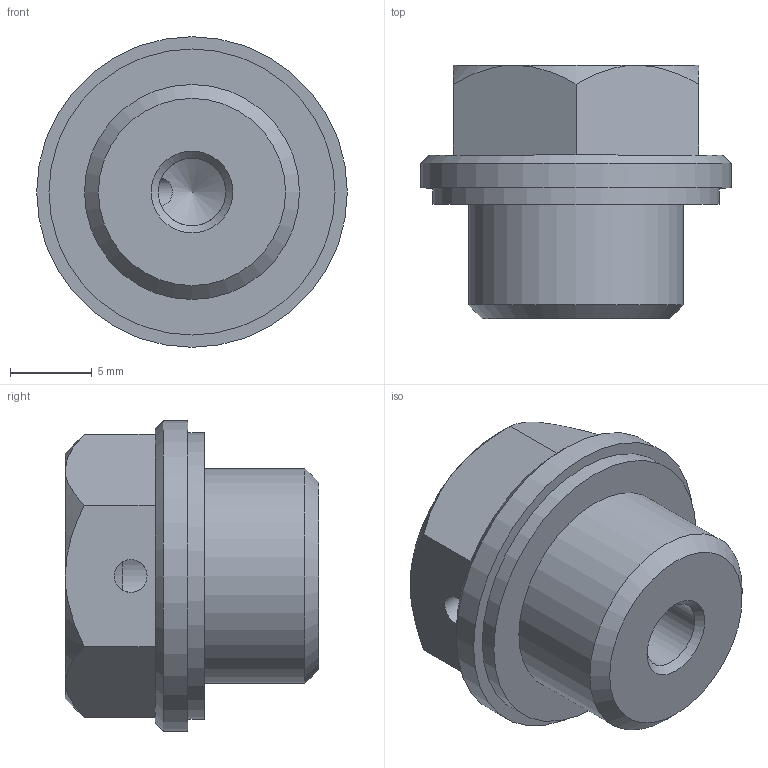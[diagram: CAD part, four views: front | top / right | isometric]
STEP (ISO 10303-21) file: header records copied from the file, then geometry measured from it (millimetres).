
FILE_DESCRIPTION( ( 'STEP AP203' ), '1' );
FILE_NAME( 'C:/Temp/Ganter_Step_05_03_2020/data/3_5/gn742/gn742_2/Threaded plug GN 742-19-G1_4-OS-2.stp', '2020-03-12T13:39:41', ( 'License CC BY-ND 4.0' ), ( 'CADENAS' ), ' ', 'PARTsolutions', ' ' );
FILE_SCHEMA( ( 'CONFIG_CONTROL_DESIGN' ) );
Length unit declared in the file: millimetre
Products named in the file (1): _Threaded plug GN 742-19-G1/4-OS-2
Bounding box: 19 x 15.5 x 19 mm (x, y, z)
Volume: 2617.6 mm3; surface area: 1447.9 mm2
Topology: 1 solids, 1 shells, 26 faces, 56 edges, 34 vertices
Faces by surface type: plane 11, cone 10, cylinder 5
Full cylindrical faces by diameter (mm): 2 x1, 4.134 x1, 13.157 x1, 17.5 x1, 19 x1
Entity records: 772 total; most frequent: CARTESIAN_POINT 225, DIRECTION 102, ORIENTED_EDGE 88, AXIS2_PLACEMENT_3D 45, EDGE_CURVE 44, EDGE_LOOP 39, VERTEX_POINT 32, FACE_OUTER_BOUND 31
